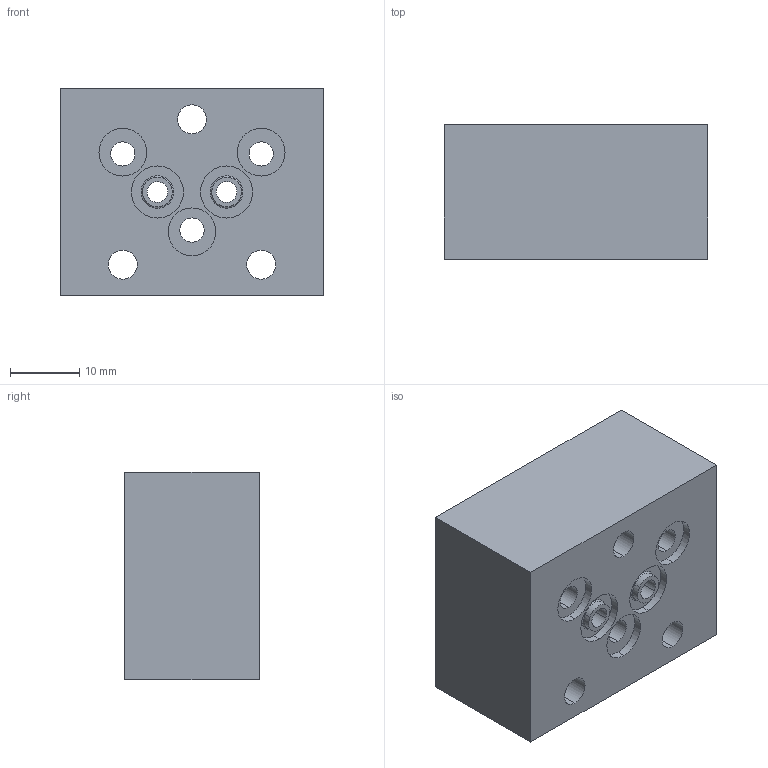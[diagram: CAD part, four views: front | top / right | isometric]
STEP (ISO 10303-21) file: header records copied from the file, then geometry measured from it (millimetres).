
FILE_DESCRIPTION (( 'STEP AP214' ), '1' );
FILE_NAME ('RNNSA03-AB.STEP', '2017-04-11T09:32:33', ( '' ), ( '' ), 'SwSTEP 2.0', 'SolidWorks 2016', '' );
FILE_SCHEMA (( 'AUTOMOTIVE_DESIGN' ));
Length unit declared in the file: millimetre
Products named in the file (1): RNNSA03-AB
Bounding box: 38 x 19.5 x 30 mm (x, y, z)
Volume: 20409.5 mm3; surface area: 6670.9 mm2
Topology: 1 solids, 1 shells, 47 faces, 110 edges, 72 vertices
Faces by surface type: cylinder 30, plane 13, torus 4
Entity records: 1963 total; most frequent: DIRECTION 274, CARTESIAN_POINT 230, ORIENTED_EDGE 220, AXIS2_PLACEMENT_3D 116, EDGE_CURVE 110, VERTEX_POINT 72, EDGE_LOOP 70, CIRCLE 68
